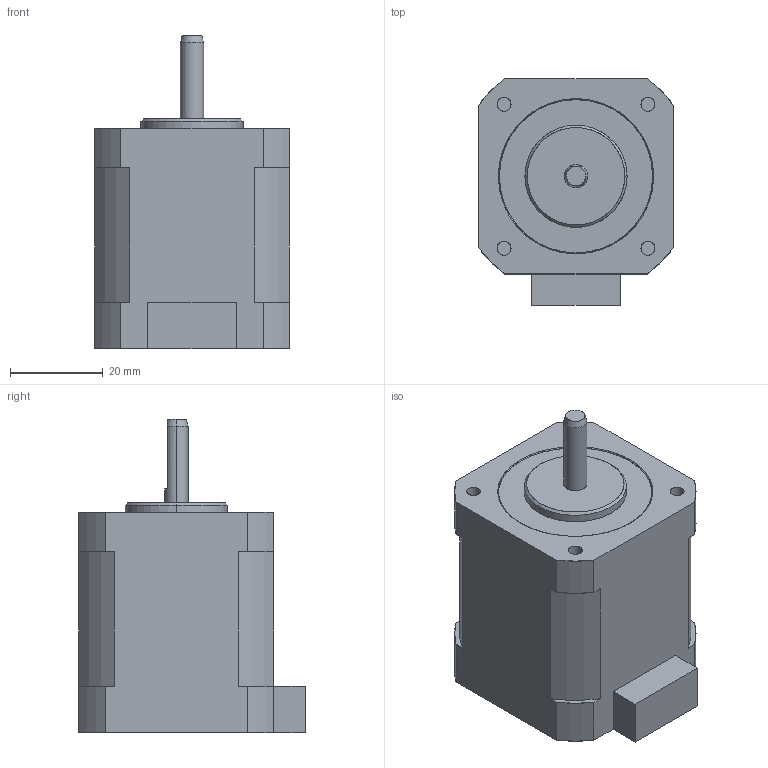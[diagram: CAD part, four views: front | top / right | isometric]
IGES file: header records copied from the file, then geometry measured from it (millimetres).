
Start section: SolidWorks IGES file using analytic representation for surfaces
Global section: file name: C:\Users\6870\Desktop\PMSA-U42D3_3D.IGS; native system: SolidWorks 2014; preprocessor: SolidWorks 2014; author: 6870; date: 170131.133149; units: millimetre
Bounding box: 42 x 48.7 x 67.5 mm (x, y, z)
Surface area: 11696.3 mm2 (no closed solid volume)
Topology: 0 solids, 0 shells, 58 faces, 820 edges, 820 vertices
Faces by surface type: revolution 31, bspline 27
